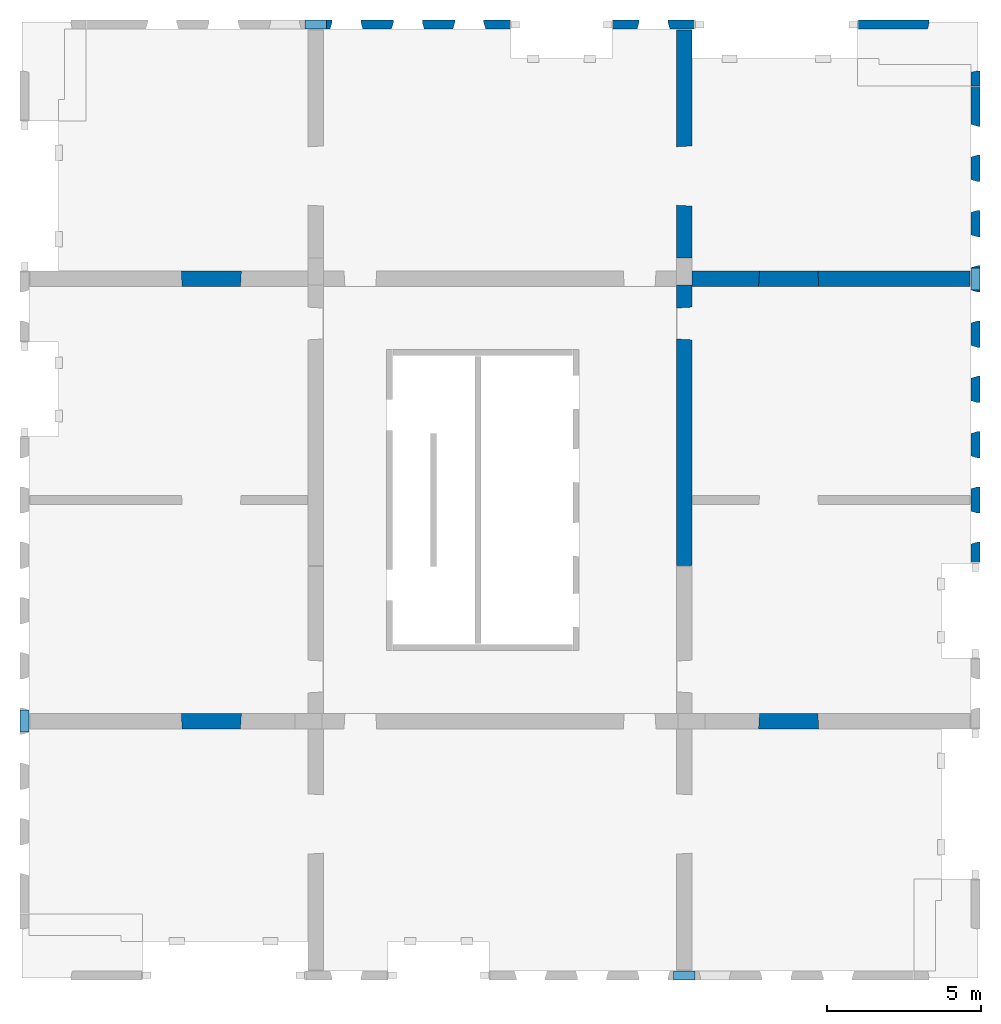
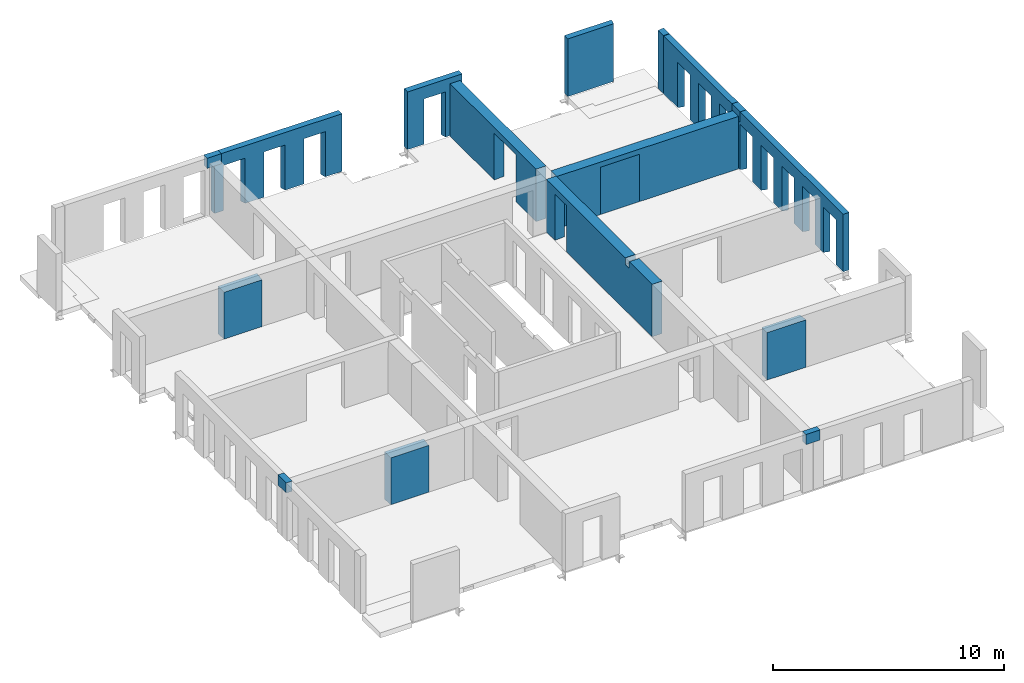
# One storey, part 4 of 4: 17 walls, 21 openings.
"""IFC2X3 building model written with IfcOpenShell, lengths in millimetres."""

import ifcopenshell
import ifcopenshell.guid

model = None  # the IFC model being written
_history = None  # IfcOwnerHistory: only IFC2X3 demands one
_inside = {}  # id of a spatial element -> (the spatial element, [elements in it])
_under = {}  # id of a project, library or spatial element -> (it, [spatial elements below it])
_declared = {}  # id of a project -> (the project, [libraries it declares])
_typed = {}  # id of a type object -> (the type object, [elements of that type])
_made_of = {}  # id of a material, layer set ... -> (it, [elements and type objects made of it])


def new_model(schema):
    """Start an empty IFC model of exactly this schema.

    Asked for "IFC4X3", IfcOpenShell would pick the latest addendum, in which some entities
    have other attributes; the version numbers below select the first issue.
    IFC2X3 requires an IfcOwnerHistory on every rooted entity: one is made here for all.
    """
    global model, _history
    if schema == "IFC4X3":
        model = ifcopenshell.file(schema_version=(4, 3, 0, 0))
    else:
        model = ifcopenshell.file(schema=schema)
    _inside.clear()
    _under.clear()
    _declared.clear()
    _typed.clear()
    _made_of.clear()
    _history = None
    if model.schema == "IFC2X3":
        org = make("IfcOrganization", Name="unknown")
        user = make(
            "IfcPersonAndOrganization",
            ThePerson=make("IfcPerson", FamilyName="unknown"),
            TheOrganization=org,
        )
        app = make(
            "IfcApplication",
            ApplicationDeveloper=org,
            Version="unknown",
            ApplicationFullName="unknown",
            ApplicationIdentifier="unknown",
        )
        _history = make(
            "IfcOwnerHistory",
            OwningUser=user,
            OwningApplication=app,
            ChangeAction="ADDED",
            CreationDate=0,
        )
    return model


def make(cls, **values):
    """One entity of the class cls with the attributes given. An attribute that is None is left unset."""
    return model.create_entity(
        cls, **{name: value for name, value in values.items() if value is not None}
    )


def entity(cls, *values):
    """Any entity or typed value of the class cls, its attributes in the order of the schema. None: left unset."""
    e = model.create_entity(cls)
    for i, value in enumerate(values):
        if value is not None:
            e[i] = value
    return e


def rooted(cls, **values):
    """An entity with a GlobalId (a new one), such as an element, a storey or a relation."""
    return make(cls, GlobalId=ifcopenshell.guid.new(), OwnerHistory=_history, **values)


def si_unit(unit_type, name, prefix=None):
    """IfcSIUnit, for example si_unit("LENGTHUNIT", "METRE", prefix="MILLI")."""
    return make("IfcSIUnit", UnitType=unit_type, Prefix=prefix, Name=name)


def converted_unit(unit_type, name, factor, base, dimensions=None, offset=None):
    """IfcConversionBasedUnit, such as the inch: factor (a typed value) times the base unit."""
    return make(
        "IfcConversionBasedUnit"
        if offset is None
        else "IfcConversionBasedUnitWithOffset",
        ConversionOffset=offset,
        Dimensions=None
        if dimensions is None
        else entity("IfcDimensionalExponents", *dimensions),
        UnitType=unit_type,
        Name=name,
        ConversionFactor=make(
            "IfcMeasureWithUnit", ValueComponent=factor, UnitComponent=base
        ),
    )


def derived_unit(unit_type, elements):
    """IfcDerivedUnit: a product of units, each with its exponent."""
    return make(
        "IfcDerivedUnit",
        Elements=[
            make("IfcDerivedUnitElement", Unit=unit, Exponent=power)
            for unit, power in elements
        ],
        UnitType=unit_type,
    )


def assignment(units):
    """IfcUnitAssignment: the units of a project."""
    return None if units is None else make("IfcUnitAssignment", Units=units)


def point(xyz):
    """IfcCartesianPoint."""
    return None if xyz is None else make("IfcCartesianPoint", Coordinates=xyz)


def direction(xyz):
    """IfcDirection."""
    return None if xyz is None else make("IfcDirection", DirectionRatios=xyz)


def frame(location, z_axis=None, x_axis=None):
    """IfcAxis2Placement3D, a coordinate frame: its origin and axes. An axis left out is left unset."""
    return make(
        "IfcAxis2Placement3D",
        Location=point(location),
        Axis=direction(z_axis),
        RefDirection=direction(x_axis),
    )


def frame_2d(location, x_axis=None):
    """IfcAxis2Placement2D, a coordinate frame in the plane: its origin and x axis."""
    return make(
        "IfcAxis2Placement2D", Location=point(location), RefDirection=direction(x_axis)
    )


def origin():
    """The frame at (0, 0, 0) with its axes left unset."""
    return frame((0.0, 0.0, 0.0))


def place(relative_to, where):
    """IfcLocalPlacement: puts the frame where relative to a parent placement (None: the world)."""
    return make(
        "IfcLocalPlacement", PlacementRelTo=relative_to, RelativePlacement=where
    )


def context(
    kind, dimensions, precision=None, world=None, true_north=None, identifier=None
):
    """IfcGeometricRepresentationContext, for example the 3D "Model" context."""
    return make(
        "IfcGeometricRepresentationContext",
        ContextIdentifier=identifier,
        ContextType=kind,
        CoordinateSpaceDimension=dimensions,
        Precision=precision,
        WorldCoordinateSystem=world,
        TrueNorth=true_north,
    )


def subcontext(parent, identifier, kind, view, scale=None):
    """IfcGeometricRepresentationSubContext, for example "Body" below "Model"."""
    return make(
        "IfcGeometricRepresentationSubContext",
        ContextIdentifier=identifier,
        ContextType=kind,
        ParentContext=parent,
        TargetScale=scale,
        TargetView=view,
    )


def project(units=None, contexts=None):
    """IfcProject with its units and contexts."""
    return rooted(
        "IfcProject",
        Name="project",
        RepresentationContexts=contexts,
        UnitsInContext=assignment(units),
    )


def spatial(cls, under=None, at=None, **own):
    """A site, building, storey or space (cls), placed at a placement, below another one or the project."""
    s = rooted(cls, ObjectPlacement=at, **own)
    if under is not None:
        _under.setdefault(under.id(), (under, []))[1].append(s)
    return s


def profile(cls, at=None, kind="AREA", **sizes):
    """A parametric profile (cls). Its sizes go by their IFC names, for example OverallWidth=200.0."""
    return make(cls, ProfileType=kind, Position=at, **sizes)


def rectangle(**sizes):
    """IfcRectangleProfileDef."""
    return profile("IfcRectangleProfileDef", **sizes)


def extrude(swept, where, along, depth):
    """IfcExtrudedAreaSolid: the profile swept, set in the frame where, extruded along a direction by depth."""
    return make(
        "IfcExtrudedAreaSolid",
        SweptArea=swept,
        Position=where,
        ExtrudedDirection=direction(along),
        Depth=depth,
    )


def faces_of(points, faces, orient=None, outer=None):
    """IfcFace entities. A face is a list of loops; a loop is a list of indices into points, from 0.

    orient and outer hold one flag for each loop. By default every Orientation is true, the
    first loop of a face is its IfcFaceOuterBound and the others are IfcFaceBound.
    """
    made = []
    for i, loops in enumerate(faces):
        bounds = []
        for j, loop in enumerate(loops):
            is_outer = j == 0 if outer is None else outer[i][j]
            bounds.append(
                make(
                    "IfcFaceOuterBound" if is_outer else "IfcFaceBound",
                    Bound=make("IfcPolyLoop", Polygon=[points[k] for k in loop]),
                    Orientation=True if orient is None else orient[i][j],
                )
            )
        made.append(make("IfcFace", Bounds=bounds))
    return made


def faceted_brep(points, faces, orient=None, outer=None, voids=None):
    """IfcFacetedBrep: a solid bounded by flat faces; with voids (closed shells), ...WithVoids."""
    shared = [point(p) for p in points]
    hull = make("IfcClosedShell", CfsFaces=faces_of(shared, faces, orient, outer))
    if voids is None:
        return make("IfcFacetedBrep", Outer=hull)
    return make(
        "IfcFacetedBrepWithVoids",
        Outer=hull,
        Voids=[
            make(cls, CfsFaces=faces_of(shared, fs, o, b)) for cls, fs, o, b in voids
        ],
    )


def shape(context_of_items, identifier, shape_type, items):
    """IfcShapeRepresentation: the items that make up one representation, for example the "Body"."""
    return make(
        "IfcShapeRepresentation",
        ContextOfItems=context_of_items,
        RepresentationIdentifier=identifier,
        RepresentationType=shape_type,
        Items=items,
    )


def material(Name=None, Category=None):
    """IfcMaterial."""
    return make("IfcMaterial", Name=Name, Category=Category)


def layer(
    of_material, thickness, ventilated=None, Name=None, Category=None, Priority=None
):
    """IfcMaterialLayer: one layer of a wall or slab, of a material (None: an air gap)."""
    return make(
        "IfcMaterialLayer",
        Material=of_material,
        LayerThickness=thickness,
        IsVentilated=ventilated,
        Name=Name,
        Category=Category,
        Priority=Priority,
    )


def layer_set(layers, Name=None):
    """IfcMaterialLayerSet."""
    return make("IfcMaterialLayerSet", MaterialLayers=layers, LayerSetName=Name)


def layer_usage(for_layer_set, set_direction, sense, offset, extent=None):
    """IfcMaterialLayerSetUsage: how a layer set lies in its element."""
    return make(
        "IfcMaterialLayerSetUsage",
        ForLayerSet=for_layer_set,
        LayerSetDirection=set_direction,
        DirectionSense=sense,
        OffsetFromReferenceLine=offset,
        ReferenceExtent=extent,
    )


def made_of(thing, what):
    """Note that an element or type object is made of a material, layer set ...; save() writes the relation."""
    if what is not None:
        _made_of.setdefault(what.id(), (what, []))[1].append(thing)
    return thing


def type_object(cls, material=None, **own):
    """A type object (cls), such as IfcWallType, which elements share."""
    return made_of(rooted(cls, **own), material)


def element(
    cls,
    number,
    at=None,
    inside=None,
    cuts=None,
    type_object=None,
    material=None,
    context=None,
    identifier="Body",
    shape_type=None,
    held_by="IfcProductDefinitionShape",
    body=None,
    shapes=None,
    **own,
):
    """One element of the class cls, such as IfcWall. Its Tag is "e" and its number.

    at: its placement. inside: the storey or other place that contains it. cuts: it is an
    opening in that element (IfcRelVoidsElement). A single representation is given by context,
    identifier, shape_type and body (its items); several are given by shapes. held_by: the class
    of the entity that holds the representations. save() writes the other relations.
    """
    e = rooted(cls, Tag="e%d" % number, ObjectPlacement=at, **own)
    if body is not None:
        shapes = [shape(context, identifier, shape_type, body)]
    if shapes is not None:
        e.Representation = make(held_by, Representations=shapes)
    if inside is not None:
        _inside.setdefault(inside.id(), (inside, []))[1].append(e)
    if cuts is not None:
        rooted(
            "IfcRelVoidsElement", RelatingBuildingElement=cuts, RelatedOpeningElement=e
        )
    if type_object is not None:
        _typed.setdefault(type_object.id(), (type_object, []))[1].append(e)
    return made_of(e, material)


def aggregate(whole, parts):
    """IfcRelAggregates: a whole, such as a stair, and the parts it consists of."""
    return rooted("IfcRelAggregates", RelatingObject=whole, RelatedObjects=parts)


def save(model, path):
    """Write the relations noted so far, then the file.

    IfcRelAggregates (storeys below a building ...), IfcRelContainedInSpatialStructure (elements
    in a storey), IfcRelDefinesByType, IfcRelAssociatesMaterial and IfcRelDeclares: one each for
    every whole, place, type object, material and project.
    """
    for whole, parts in _under.values():
        aggregate(whole, parts)
    for where, things in _inside.values():
        rooted(
            "IfcRelContainedInSpatialStructure",
            RelatedElements=things,
            RelatingStructure=where,
        )
    for kind, things in _typed.values():
        rooted("IfcRelDefinesByType", RelatedObjects=things, RelatingType=kind)
    for what, things in _made_of.values():
        rooted("IfcRelAssociatesMaterial", RelatedObjects=things, RelatingMaterial=what)
    for by, libraries in _declared.values():
        rooted("IfcRelDeclares", RelatingContext=by, RelatedDefinitions=libraries)
    model.write(path)


model = new_model("IFC2X3")

# Units and contexts
model_context = context("Model", 3, precision=0.01, world=origin(), true_north=direction((6.12303176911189e-17, 1.0)))
body_context = subcontext(model_context, "Body", "Model", "MODEL_VIEW")
ifc_project = project(units=[si_unit("LENGTHUNIT", "METRE", prefix="MILLI"), si_unit("AREAUNIT", "SQUARE_METRE"), si_unit("VOLUMEUNIT", "CUBIC_METRE"), converted_unit("PLANEANGLEUNIT", "DEGREE", entity("IfcRatioMeasure", 0.0174532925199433), si_unit("PLANEANGLEUNIT", "RADIAN"), dimensions=[0, 0, 0, 0, 0, 0, 0]), si_unit("MASSUNIT", "GRAM", prefix="KILO"), derived_unit("MASSDENSITYUNIT", [(si_unit("MASSUNIT", "GRAM", prefix="KILO"), 1), (si_unit("LENGTHUNIT", "METRE"), -3)]), si_unit("TIMEUNIT", "SECOND"), si_unit("FREQUENCYUNIT", "HERTZ"), si_unit("THERMODYNAMICTEMPERATUREUNIT", "DEGREE_CELSIUS"), derived_unit("THERMALTRANSMITTANCEUNIT", [(si_unit("MASSUNIT", "GRAM", prefix="KILO"), 1), (si_unit("THERMODYNAMICTEMPERATUREUNIT", "KELVIN"), -1), (si_unit("TIMEUNIT", "SECOND"), -3)]), derived_unit("VOLUMETRICFLOWRATEUNIT", [(si_unit("LENGTHUNIT", "METRE"), 3), (si_unit("TIMEUNIT", "SECOND"), -1)]), si_unit("ELECTRICCURRENTUNIT", "AMPERE"), si_unit("ELECTRICVOLTAGEUNIT", "VOLT"), si_unit("POWERUNIT", "WATT"), si_unit("FORCEUNIT", "NEWTON", prefix="KILO"), si_unit("ILLUMINANCEUNIT", "LUX"), si_unit("LUMINOUSFLUXUNIT", "LUMEN"), si_unit("LUMINOUSINTENSITYUNIT", "CANDELA"), derived_unit("USERDEFINED", [(si_unit("MASSUNIT", "GRAM", prefix="KILO"), -1), (si_unit("LENGTHUNIT", "METRE"), -2), (si_unit("TIMEUNIT", "SECOND"), 3), (si_unit("LUMINOUSFLUXUNIT", "LUMEN"), 1)]), derived_unit("LINEARVELOCITYUNIT", [(si_unit("LENGTHUNIT", "METRE"), 1), (si_unit("TIMEUNIT", "SECOND"), -1)]), si_unit("PRESSUREUNIT", "PASCAL"), derived_unit("USERDEFINED", [(si_unit("LENGTHUNIT", "METRE"), -2), (si_unit("MASSUNIT", "GRAM", prefix="KILO"), 1), (si_unit("TIMEUNIT", "SECOND"), -2)])], contexts=[model_context])

# Site, building, storey
site_placement = place(None, origin())
site = spatial("IfcSite", under=ifc_project, at=site_placement, Name="Default", CompositionType="ELEMENT")
building_placement = place(site_placement, origin())
building = spatial("IfcBuilding", under=site, at=building_placement, Name="niet gebruiken", CompositionType="ELEMENT")
storey_placement = place(building_placement, frame((0.0, 0.0, 54720.0)))
storey = spatial("IfcBuildingStorey", under=building, at=storey_placement, Name="17 zeventiende verdieping", CompositionType="ELEMENT", Elevation=54720.0)

# Walls
ifc_material_1 = material(Name="NLRS_f2_beton ihwg")
ifc_layer_1 = layer(ifc_material_1, 300.0)
ifc_layer_set_1 = layer_set([ifc_layer_1], Name="Basic Wall:NLRS_21.21_WA_beton ihwg d=300_gen")
ifc_layer_usage_1 = layer_usage(ifc_layer_set_1, "AXIS2", "NEGATIVE", 150.0)
wall_type_1 = type_object("IfcWallType", Name="Basic Wall:NLRS_21.21_WA_beton ihwg d=300_gen", PredefinedType="STANDARD", material=ifc_layer_set_1)
wall_1_placement = place(storey_placement, frame((135395.0, 32980.0, 2455.0)))
element("IfcWallStandardCase", 1, at=wall_1_placement, inside=storey, type_object=wall_type_1, material=ifc_layer_usage_1, Name="Basic Wall:NLRS_21.21_WA_beton ihwg d=300_gen", ObjectType="Basic Wall:NLRS_21.21_WA_beton ihwg d=300_gen", context=body_context, shape_type="SweptSolid", body=[
    extrude(rectangle(XDim=710.000000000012, YDim=300.000000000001, at=frame_2d((355.000000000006, 0.0), x_axis=(-1.0, 0.0))), origin(), (0.0, 0.0, 1.0), 535.0),
])
ifc_layer_usage_2 = layer_usage(ifc_layer_set_1, "AXIS2", "NEGATIVE", 150.0)
wall_2_placement = place(storey_placement, frame((148105.0, 2020.0, 2455.0), z_axis=(0.0, 0.0, 1.0), x_axis=(-1.0, 0.0, 0.0)))
element("IfcWallStandardCase", 2, at=wall_2_placement, inside=storey, type_object=wall_type_1, material=ifc_layer_usage_2, Name="Basic Wall:NLRS_21.21_WA_beton ihwg d=300_gen", ObjectType="Basic Wall:NLRS_21.21_WA_beton ihwg d=300_gen", context=body_context, shape_type="SweptSolid", body=[
    extrude(rectangle(XDim=710.000000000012, YDim=300.0, at=frame_2d((355.000000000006, -1.4210854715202e-14), x_axis=(-1.0, 0.0))), origin(), (0.0, 0.0, 1.0), 535.0),
])
ifc_layer_usage_3 = layer_usage(ifc_layer_set_1, "AXIS2", "NEGATIVE", 150.0)
wall_3_placement = place(storey_placement, frame((157230.0, 25055.0, 2455.0), z_axis=(0.0, 0.0, 1.0), x_axis=(0.0, -1.0, 0.0)))
element("IfcWallStandardCase", 3, at=wall_3_placement, inside=storey, type_object=wall_type_1, material=ifc_layer_usage_3, Name="Basic Wall:NLRS_21.21_WA_beton ihwg d=300_gen", ObjectType="Basic Wall:NLRS_21.21_WA_beton ihwg d=300_gen", context=body_context, shape_type="SweptSolid", body=[
    extrude(rectangle(XDim=710.000000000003, YDim=300.000000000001, at=frame_2d((355.000000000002, 9.9475983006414e-13), x_axis=(-1.0, 0.0))), origin(), (0.0, 0.0, 1.0), 535.0),
])
ifc_layer_usage_4 = layer_usage(ifc_layer_set_1, "AXIS2", "NEGATIVE", 150.0)
wall_4_placement = place(storey_placement, frame((126270.0, 9945.0, 2455.0), z_axis=(0.0, 0.0, 1.0), x_axis=(0.0, 1.0, 0.0)))
element("IfcWallStandardCase", 4, at=wall_4_placement, inside=storey, type_object=wall_type_1, material=ifc_layer_usage_4, Name="Basic Wall:NLRS_21.21_WA_beton ihwg d=300_gen", ObjectType="Basic Wall:NLRS_21.21_WA_beton ihwg d=300_gen", context=body_context, shape_type="SweptSolid", body=[
    extrude(rectangle(XDim=710.000000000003, YDim=300.000000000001, at=frame_2d((355.000000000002, 0.0), x_axis=(-1.0, 0.0))), origin(), (0.0, 0.0, 1.0), 535.0),
])

# Wall, opening
ifc_material_2 = material(Name="NLRS_f2_beton prefab")
ifc_layer_2 = layer(ifc_material_2, 500.0)
ifc_layer_set_2 = layer_set([ifc_layer_2], Name="Basic Wall:NLRS_22.21_WA_beton prefab d=500_gen")
ifc_layer_usage_5 = layer_usage(ifc_layer_set_2, "AXIS2", "NEGATIVE", 250.0)
wall_type_2 = type_object("IfcWallType", Name="Basic Wall:NLRS_22.21_WA_beton prefab d=500_gen", PredefinedType="STANDARD", material=ifc_layer_set_2)
wall_5_placement = place(storey_placement, frame((157060.0, 24700.0, -70.0), z_axis=(0.0, 0.0, 1.0), x_axis=(-1.0, 0.0, 0.0)))
wall_5 = element("IfcWallStandardCase", 5, at=wall_5_placement, inside=storey, type_object=wall_type_2, material=ifc_layer_usage_5, Name="Basic Wall:NLRS_22.21_WA_beton prefab d=500_gen", ObjectType="Basic Wall:NLRS_22.21_WA_beton prefab d=500_gen", context=body_context, shape_type="SweptSolid", body=[
    extrude(rectangle(XDim=9060.00000000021, YDim=499.999999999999, at=frame_2d((4530.00000000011, -1.37845290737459e-12), x_axis=(-1.0, 0.0))), origin(), (0.0, 0.0, 1.0), 2769.99999999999),
])
opening_1_placement = place(wall_5_placement, frame((6890.0, 250.0, 0.0)))
element("IfcOpeningElement", 6, at=opening_1_placement, cuts=wall_5, Name="Basic Wall:NLRS_22.21_WA_beton prefab d=500_gen", ObjectType="Opening", context=body_context, shape_type="Brep", body=[
    faceted_brep([(-30.0, -500.0, 2470.0), (-1930.0, -500.0, 2470.0), (-1930.0, -500.0, 0.0), (-30.0, -500.0, 0.0), (0.0, 0.0, 2500.0), (0.0, 0.0, 0.0), (-1960.0, 0.0, 0.0), (-1960.0, 0.0, 2500.0)], [[[0, 1, 2, 3]], [[4, 5, 6, 7]], [[4, 7, 1, 0]], [[7, 6, 2, 1]], [[6, 5, 3, 2]], [[5, 4, 0, 3]]]),
])

ifc_layer_usage_6 = layer_usage(ifc_layer_set_2, "AXIS2", "NEGATIVE", 250.0)
wall_6_placement = place(storey_placement, frame((147750.0, 25380.0, -70.0), z_axis=(0.0, 0.0, 1.0), x_axis=(0.0, 1.0, 0.0)))
wall_6 = element("IfcWallStandardCase", 7, at=wall_6_placement, inside=storey, type_object=wall_type_2, material=ifc_layer_usage_6, Name="Basic Wall:NLRS_22.21_WA_beton prefab d=500_gen", ObjectType="Basic Wall:NLRS_22.21_WA_beton prefab d=500_gen", context=body_context, shape_type="SweptSolid", body=[
    extrude(rectangle(XDim=7429.99999999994, YDim=499.99999999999, at=frame_2d((3714.99999999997, 1.70530256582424e-12), x_axis=(-1.0, 0.0))), origin(), (0.0, 0.0, 1.0), 2769.99999999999),
])
opening_2_placement = place(wall_6_placement, frame((1690.0, 250.0, 0.0)))
element("IfcOpeningElement", 8, at=opening_2_placement, cuts=wall_6, Name="Basic Wall:NLRS_22.21_WA_beton prefab d=500_gen", ObjectType="Opening", context=body_context, shape_type="Brep", body=[
    faceted_brep([(1930.0, 0.0, 2470.0), (1930.0, 0.0, 0.0), (30.0, 0.0, 0.0), (30.0, 0.0, 2470.0), (1960.0, -500.0, 2500.0), (0.0, -500.0, 2500.0), (0.0, -500.0, 0.0), (1960.0, -500.0, 0.0)], [[[0, 1, 2, 3]], [[4, 5, 6, 7]], [[4, 0, 3, 5]], [[5, 3, 2, 6]], [[6, 2, 1, 7]], [[7, 1, 0, 4]]]),
])

# Wall, openings
ifc_layer_usage_7 = layer_usage(ifc_layer_set_2, "AXIS2", "NEGATIVE", 250.0)
wall_7_placement = place(storey_placement, frame((147750.0, 24500.0, -70.0), z_axis=(0.0, 0.0, 1.0), x_axis=(0.0, -1.0, 0.0)))
wall_7 = element("IfcWallStandardCase", 9, at=wall_7_placement, inside=storey, type_object=wall_type_2, material=ifc_layer_usage_7, Name="Basic Wall:NLRS_22.21_WA_beton prefab d=500_gen", ObjectType="Basic Wall:NLRS_22.21_WA_beton prefab d=500_gen", context=body_context, shape_type="SweptSolid", body=[
    extrude(rectangle(XDim=9140.00000000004, YDim=499.99999999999, at=frame_2d((4570.00000000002, -1.4210854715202e-14), x_axis=(-1.0, 0.0))), origin(), (0.0, 0.0, 1.0), 2770.00000000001),
])
opening_3_placement = place(wall_7_placement, frame((1786.0, -250.0, 0.0)))
element("IfcOpeningElement", 10, at=opening_3_placement, cuts=wall_7, Name="Basic Wall:NLRS_22.21_WA_beton prefab d=500_gen", ObjectType="Opening", context=body_context, shape_type="Brep", body=[
    faceted_brep([(-1066.0, 500.0, 2478.0), (-1066.0, 500.0, 0.0), (-1036.0, 0.0, 0.0), (-1036.0, 0.0, 2448.0), (0.0, 500.0, 0.0), (-30.0, 0.0, 0.0), (-30.0, 0.0, 2448.0), (0.0, 500.0, 2478.0)], [[[0, 1, 2, 3]], [[1, 4, 5, 2]], [[6, 3, 2, 5]], [[7, 4, 1, 0]], [[7, 0, 3, 6]], [[4, 7, 6, 5]]]),
])
opening_4_placement = place(wall_7_placement, origin())
element("IfcOpeningElement", 11, at=opening_4_placement, cuts=wall_7, Name="Basic Wall:NLRS_22.21_WA_beton prefab d=500_gen", ObjectType="Opening", context=body_context, shape_type="SweptSolid", body=[
    extrude(rectangle(XDim=350.000000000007, YDim=339.999999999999, at=frame_2d((-1.08002495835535e-12, -8.66862137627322e-12), x_axis=(0.0, 1.0))), frame((7000.0, 250.0, 2595.0), z_axis=(0.0, -1.0, 0.0), x_axis=(-1.0, 0.0, 0.0)), (0.0, 0.0, 1.0), 500.0),
])

# Wall, opening
ifc_layer_3 = layer(ifc_material_2, 300.0)
ifc_layer_set_3 = layer_set([ifc_layer_3], Name="Basic Wall:NLRS_21.21_WA_beton prefab d=300/320_gen")
ifc_layer_usage_8 = layer_usage(ifc_layer_set_3, "AXIS2", "NEGATIVE", 150.0)
wall_type_3 = type_object("IfcWallType", Name="Basic Wall:NLRS_21.21_WA_beton prefab d=300/320_gen", PredefinedType="STANDARD", material=ifc_layer_set_3)
wall_8_placement = place(storey_placement, frame((145390.0, 32980.0, -50.0)))
wall_8 = element("IfcWallStandardCase", 12, at=wall_8_placement, inside=storey, type_object=wall_type_3, material=ifc_layer_usage_8, Name="Basic Wall:NLRS_21.21_WA_beton prefab d=300/320_gen", ObjectType="Basic Wall:NLRS_21.21_WA_beton prefab d=300/320_gen", context=body_context, shape_type="SweptSolid", body=[
    extrude(rectangle(XDim=2720.00000000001, YDim=300.000000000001, at=frame_2d((1360.0, -4.54747350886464e-13), x_axis=(-1.0, 0.0))), origin(), (0.0, 0.0, 1.0), 3040.0),
])
opening_5_placement = place(wall_8_placement, frame((825.0, -150.0, -20.0)))
element("IfcOpeningElement", 13, at=opening_5_placement, cuts=wall_8, Name="Basic Wall:NLRS_21.21_WA_beton prefab d=300/320_gen", ObjectType="Opening", context=body_context, shape_type="Brep", body=[
    faceted_brep([(0.0, 0.0, 2405.0), (0.0, 0.0, 0.0), (1070.0, 0.0, 0.0), (1070.0, 0.0, 2405.0), (1005.0, 219.0, 2370.0), (65.0, 219.0, 2370.0), (1005.0, 219.0, 0.0), (65.0, 219.0, 0.0), (65.0, 300.0, 0.0), (1005.0, 300.0, 0.0), (65.0, 300.0, 2370.0), (1005.0, 300.0, 2370.0)], [[[0, 1, 2, 3]], [[3, 4, 5, 0]], [[2, 6, 4, 3]], [[1, 7, 8, 9, 6, 2]], [[0, 5, 7, 1]], [[10, 11, 9, 8]], [[10, 5, 4, 11]], [[11, 4, 6, 9]], [[8, 7, 5, 10]]]),
])

# Wall, openings
ifc_layer_usage_9 = layer_usage(ifc_layer_set_3, "AXIS2", "NEGATIVE", 150.0)
wall_9_placement = place(storey_placement, frame((157230.0, 30960.0, -50.0), z_axis=(0.0, 0.0, 1.0), x_axis=(0.0, -1.0, 0.0)))
wall_9 = element("IfcWallStandardCase", 14, at=wall_9_placement, inside=storey, type_object=wall_type_3, material=ifc_layer_usage_9, Name="Basic Wall:NLRS_21.21_WA_beton prefab d=300/320_gen", ObjectType="Basic Wall:NLRS_21.21_WA_beton prefab d=300/320_gen", context=body_context, shape_type="SweptSolid", body=[
    extrude(rectangle(XDim=6249.99999999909, YDim=300.000000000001, at=frame_2d((3124.99999999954, -8.61177795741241e-12), x_axis=(-1.0, 0.0))), origin(), (0.0, 0.0, 1.0), 3039.99999999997),
])
opening_6_placement = place(wall_9_placement, frame((2295.0, -150.0, -20.0)))
element("IfcOpeningElement", 15, at=opening_6_placement, cuts=wall_9, Name="Basic Wall:NLRS_21.21_WA_beton prefab d=300/320_gen", ObjectType="Opening", context=body_context, shape_type="Brep", body=[
    faceted_brep([(-1070.0, 0.0, 2405.0), (-1070.0, 0.0, 0.0), (0.0, 0.0, 0.0), (0.0, 0.0, 2405.0), (-65.0, 219.0, 2370.0), (-1005.0, 219.0, 2370.0), (-65.0, 219.0, 0.0), (-1005.0, 219.0, 0.0), (-1005.0, 300.0, 0.0), (-65.0, 300.0, 0.0), (-1005.0, 300.0, 2370.0), (-65.0, 300.0, 2370.0)], [[[0, 1, 2, 3]], [[3, 4, 5, 0]], [[2, 6, 4, 3]], [[1, 7, 8, 9, 6, 2]], [[0, 5, 7, 1]], [[10, 11, 9, 8]], [[10, 5, 4, 11]], [[11, 4, 6, 9]], [[8, 7, 5, 10]]]),
])
opening_7_placement = place(wall_9_placement, frame((4095.0, -150.0, -20.0)))
element("IfcOpeningElement", 16, at=opening_7_placement, cuts=wall_9, Name="Basic Wall:NLRS_21.21_WA_beton prefab d=300/320_gen", ObjectType="Opening", context=body_context, shape_type="Brep", body=[
    faceted_brep([(-1070.0, 0.0, 2405.0), (-1070.0, 0.0, 0.0), (0.0, 0.0, 0.0), (0.0, 0.0, 2405.0), (-65.0, 219.0, 2370.0), (-1005.0, 219.0, 2370.0), (-65.0, 219.0, 0.0), (-1005.0, 219.0, 0.0), (-1005.0, 300.0, 0.0), (-65.0, 300.0, 0.0), (-1005.0, 300.0, 2370.0), (-65.0, 300.0, 2370.0)], [[[0, 1, 2, 3]], [[3, 4, 5, 0]], [[2, 6, 4, 3]], [[1, 7, 8, 9, 6, 2]], [[0, 5, 7, 1]], [[10, 11, 9, 8]], [[10, 5, 4, 11]], [[11, 4, 6, 9]], [[8, 7, 5, 10]]]),
])
opening_8_placement = place(wall_9_placement, frame((5895.0, -150.0, -20.0)))
element("IfcOpeningElement", 17, at=opening_8_placement, cuts=wall_9, Name="Basic Wall:NLRS_21.21_WA_beton prefab d=300/320_gen", ObjectType="Opening", context=body_context, shape_type="Brep", body=[
    faceted_brep([(-1070.0, 0.0, 2405.0), (-1070.0, 0.0, 0.0), (0.0, 0.0, 0.0), (0.0, 0.0, 2405.0), (-65.0, 219.0, 2370.0), (-1005.0, 219.0, 2370.0), (-65.0, 219.0, 0.0), (-1005.0, 219.0, 0.0), (-1005.0, 300.0, 0.0), (-65.0, 300.0, 0.0), (-1005.0, 300.0, 2370.0), (-65.0, 300.0, 2370.0)], [[[0, 1, 2, 3]], [[3, 4, 5, 0]], [[2, 6, 4, 3]], [[1, 7, 8, 9, 6, 2]], [[0, 5, 7, 1]], [[10, 11, 9, 8]], [[10, 5, 4, 11]], [[11, 4, 6, 9]], [[8, 7, 5, 10]]]),
])
opening_9_placement = place(wall_9_placement, origin())
element("IfcOpeningElement", 18, at=opening_9_placement, cuts=wall_9, Name="Basic Wall:NLRS_21.21_WA_beton prefab d=300/320_gen", ObjectType="Opening", context=body_context, shape_type="SweptSolid", body=[
    extrude(rectangle(XDim=534.99999999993, YDim=344.999999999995, at=frame_2d((0.0, -2.17426077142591e-12), x_axis=(1.0, 0.0))), frame((6077.49999999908, 150.0, 2772.5), z_axis=(0.0, -1.0, 0.0), x_axis=(0.0, 0.0, 1.0)), (0.0, 0.0, 1.0), 300.0),
])

# Wall, opening
ifc_layer_usage_10 = layer_usage(ifc_layer_set_3, "AXIS2", "NEGATIVE", 150.0)
wall_10_placement = place(storey_placement, frame((153390.0, 32980.0, -50.0)))
wall_10 = element("IfcWallStandardCase", 19, at=wall_10_placement, inside=storey, type_object=wall_type_3, material=ifc_layer_usage_10, Name="Basic Wall:NLRS_21.21_WA_beton prefab d=300/320_gen", ObjectType="Basic Wall:NLRS_21.21_WA_beton prefab d=300/320_gen", context=body_context, shape_type="SweptSolid", body=[
    extrude(rectangle(XDim=2330.00000000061, YDim=300.000000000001, at=frame_2d((1165.00000000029, -1.29318777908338e-12), x_axis=(-1.0, 0.0))), origin(), (0.0, 0.0, 1.0), 3040.0),
])
opening_10_placement = place(wall_10_placement, frame((2265.0, -250.0, 0.0)))
element("IfcOpeningElement", 20, at=opening_10_placement, cuts=wall_10, Name="Basic Wall:NLRS_21.21_WA_beton prefab d=300/320_gen", ObjectType="Opening", context=body_context, shape_type="Brep", body=[
    faceted_brep([(65.0, 0.0, 3040.0), (65.0, 319.0, 3040.0), (0.0, 0.0, 3040.0), (65.0, 0.0, 0.0), (0.0, 0.0, 0.0), (65.0, 319.0, 0.0)], [[[0, 1, 2]], [[3, 4, 5]], [[2, 4, 3, 0]], [[0, 3, 5, 1]], [[1, 5, 4, 2]]]),
])

ifc_layer_usage_11 = layer_usage(ifc_layer_set_3, "AXIS2", "NEGATIVE", 150.0)
wall_11_placement = place(storey_placement, frame((157230.0, 31470.0, -50.0), z_axis=(0.0, 0.0, 1.0), x_axis=(0.0, -1.0, 0.0)))
wall_11 = element("IfcWallStandardCase", 21, at=wall_11_placement, inside=storey, type_object=wall_type_3, material=ifc_layer_usage_11, Name="Basic Wall:NLRS_21.21_WA_beton prefab d=300/320_gen", ObjectType="Basic Wall:NLRS_21.21_WA_beton prefab d=300/320_gen", context=body_context, shape_type="SweptSolid", body=[
    extrude(rectangle(XDim=489.999999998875, YDim=300.000000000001, at=frame_2d((244.999999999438, -7.8159700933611e-13), x_axis=(-1.0, 0.0))), origin(), (0.0, 0.0, 1.0), 3040.0),
])
opening_11_placement = place(wall_11_placement, frame((65.0, -250.0, 0.0)))
element("IfcOpeningElement", 22, at=opening_11_placement, cuts=wall_11, Name="Basic Wall:NLRS_21.21_WA_beton prefab d=300/320_gen", ObjectType="Opening", context=body_context, shape_type="Brep", body=[
    faceted_brep([(-65.0, 0.0, 3040.0), (0.0, 0.0, 3040.0), (-65.0, 319.0, 3040.0), (-65.0, 0.0, 0.0), (-65.0, 319.0, 0.0), (0.0, 0.0, 0.0)], [[[0, 1, 2]], [[3, 4, 5]], [[1, 0, 3, 5]], [[0, 2, 4, 3]], [[2, 1, 5, 4]]]),
])

# Wall, openings
ifc_layer_usage_12 = layer_usage(ifc_layer_set_3, "AXIS2", "NEGATIVE", 150.0)
wall_12_placement = place(storey_placement, frame((157230.0, 24690.0, -50.0), z_axis=(0.0, 0.0, 1.0), x_axis=(0.0, -1.0, 0.0)))
wall_12 = element("IfcWallStandardCase", 23, at=wall_12_placement, inside=storey, type_object=wall_type_3, material=ifc_layer_usage_12, Name="Basic Wall:NLRS_21.21_WA_beton prefab d=300/320_gen", ObjectType="Basic Wall:NLRS_21.21_WA_beton prefab d=300/320_gen", context=body_context, shape_type="SweptSolid", body=[
    extrude(rectangle(XDim=9250.00000000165, YDim=300.000000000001, at=frame_2d((4625.00000000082, -4.43378667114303e-12), x_axis=(-1.0, 0.0))), origin(), (0.0, 0.0, 1.0), 3040.0),
])
opening_12_placement = place(wall_12_placement, frame((8625.0, -150.0, -20.0)))
element("IfcOpeningElement", 24, at=opening_12_placement, cuts=wall_12, Name="Basic Wall:NLRS_21.21_WA_beton prefab d=300/320_gen", ObjectType="Opening", context=body_context, shape_type="Brep", body=[
    faceted_brep([(-1070.0, 0.0, 2405.0), (-1070.0, 0.0, 0.0), (0.0, 0.0, 0.0), (0.0, 0.0, 2405.0), (-65.0, 219.0, 2370.0), (-1005.0, 219.0, 2370.0), (-65.0, 219.0, 0.0), (-1005.0, 219.0, 0.0), (-1005.0, 300.0, 0.0), (-65.0, 300.0, 0.0), (-1005.0, 300.0, 2370.0), (-65.0, 300.0, 2370.0)], [[[0, 1, 2, 3]], [[3, 4, 5, 0]], [[2, 6, 4, 3]], [[1, 7, 8, 9, 6, 2]], [[0, 5, 7, 1]], [[10, 11, 9, 8]], [[10, 5, 4, 11]], [[11, 4, 6, 9]], [[8, 7, 5, 10]]]),
])
opening_13_placement = place(wall_12_placement, frame((5025.0, -150.0, -20.0)))
element("IfcOpeningElement", 25, at=opening_13_placement, cuts=wall_12, Name="Basic Wall:NLRS_21.21_WA_beton prefab d=300/320_gen", ObjectType="Opening", context=body_context, shape_type="Brep", body=[
    faceted_brep([(-1070.0, 0.0, 2405.0), (-1070.0, 0.0, 0.0), (0.0, 0.0, 0.0), (0.0, 0.0, 2405.0), (-65.0, 219.0, 2370.0), (-1005.0, 219.0, 2370.0), (-65.0, 219.0, 0.0), (-1005.0, 219.0, 0.0), (-1005.0, 300.0, 0.0), (-65.0, 300.0, 0.0), (-1005.0, 300.0, 2370.0), (-65.0, 300.0, 2370.0)], [[[0, 1, 2, 3]], [[3, 4, 5, 0]], [[2, 6, 4, 3]], [[1, 7, 8, 9, 6, 2]], [[0, 5, 7, 1]], [[10, 11, 9, 8]], [[10, 5, 4, 11]], [[11, 4, 6, 9]], [[8, 7, 5, 10]]]),
])
opening_14_placement = place(wall_12_placement, frame((3225.0, -150.0, -20.0)))
element("IfcOpeningElement", 26, at=opening_14_placement, cuts=wall_12, Name="Basic Wall:NLRS_21.21_WA_beton prefab d=300/320_gen", ObjectType="Opening", context=body_context, shape_type="Brep", body=[
    faceted_brep([(-1070.0, 0.0, 2405.0), (-1070.0, 0.0, 0.0), (0.0, 0.0, 0.0), (0.0, 0.0, 2405.0), (-65.0, 219.0, 2370.0), (-1005.0, 219.0, 2370.0), (-65.0, 219.0, 0.0), (-1005.0, 219.0, 0.0), (-1005.0, 300.0, 0.0), (-65.0, 300.0, 0.0), (-1005.0, 300.0, 2370.0), (-65.0, 300.0, 2370.0)], [[[0, 1, 2, 3]], [[3, 4, 5, 0]], [[2, 6, 4, 3]], [[1, 7, 8, 9, 6, 2]], [[0, 5, 7, 1]], [[10, 11, 9, 8]], [[10, 5, 4, 11]], [[11, 4, 6, 9]], [[8, 7, 5, 10]]]),
])
opening_15_placement = place(wall_12_placement, frame((6825.0, -150.0, -20.0)))
element("IfcOpeningElement", 27, at=opening_15_placement, cuts=wall_12, Name="Basic Wall:NLRS_21.21_WA_beton prefab d=300/320_gen", ObjectType="Opening", context=body_context, shape_type="Brep", body=[
    faceted_brep([(-1070.0, 0.0, 2405.0), (-1070.0, 0.0, 0.0), (0.0, 0.0, 0.0), (0.0, 0.0, 2405.0), (-65.0, 219.0, 2370.0), (-1005.0, 219.0, 2370.0), (-65.0, 219.0, 0.0), (-1005.0, 219.0, 0.0), (-1005.0, 300.0, 0.0), (-65.0, 300.0, 0.0), (-1005.0, 300.0, 2370.0), (-65.0, 300.0, 2370.0)], [[[0, 1, 2, 3]], [[3, 4, 5, 0]], [[2, 6, 4, 3]], [[1, 7, 8, 9, 6, 2]], [[0, 5, 7, 1]], [[10, 11, 9, 8]], [[10, 5, 4, 11]], [[11, 4, 6, 9]], [[8, 7, 5, 10]]]),
])
opening_16_placement = place(wall_12_placement, frame((1425.0, -150.0, -20.0)))
element("IfcOpeningElement", 28, at=opening_16_placement, cuts=wall_12, Name="Basic Wall:NLRS_21.21_WA_beton prefab d=300/320_gen", ObjectType="Opening", context=body_context, shape_type="Brep", body=[
    faceted_brep([(0.0, 0.0, 2405.0), (-1070.0, 0.0, 2405.0), (-1070.0, 0.0, 0.0), (0.0, 0.0, 0.0), (-65.0, 219.0, 2370.0), (-1005.0, 219.0, 2370.0), (-1005.0, 219.0, 0.0), (-1005.0, 300.0, 0.0), (-65.0, 300.0, 0.0), (-65.0, 219.0, 0.0), (-65.0, 300.0, 2370.0), (-1005.0, 300.0, 2370.0)], [[[0, 1, 2, 3]], [[1, 0, 4, 5]], [[2, 1, 5, 6]], [[3, 2, 6, 7, 8, 9]], [[0, 3, 9, 4]], [[10, 8, 7, 11]], [[10, 11, 5, 4]], [[11, 7, 6, 5]], [[8, 10, 4, 9]]]),
])
opening_17_placement = place(wall_12_placement, origin())
element("IfcOpeningElement", 29, at=opening_17_placement, cuts=wall_12, Name="Basic Wall:NLRS_21.21_WA_beton prefab d=300/320_gen", ObjectType="Opening", context=body_context, shape_type="SweptSolid", body=[
    extrude(rectangle(XDim=534.999999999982, YDim=345.000000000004, at=frame_2d((-2.1600499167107e-12, 0.0), x_axis=(0.0, 1.0))), frame((172.5, 150.0, 2772.50000000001), z_axis=(0.0, -1.0, 0.0), x_axis=(-1.0, 0.0, 0.0)), (0.0, 0.0, 1.0), 300.0),
])

ifc_layer_usage_13 = layer_usage(ifc_layer_set_3, "AXIS2", "NEGATIVE", 150.0)
wall_13_placement = place(storey_placement, frame((135760.0, 32980.0, -50.0)))
wall_13 = element("IfcWallStandardCase", 30, at=wall_13_placement, inside=storey, type_object=wall_type_3, material=ifc_layer_usage_13, Name="Basic Wall:NLRS_21.21_WA_beton prefab d=300/320_gen", ObjectType="Basic Wall:NLRS_21.21_WA_beton prefab d=300/320_gen", context=body_context, shape_type="SweptSolid", body=[
    extrude(rectangle(XDim=6350.00000000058, YDim=300.000000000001, at=frame_2d((3175.00000000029, 0.0), x_axis=(-1.0, 0.0))), origin(), (0.0, 0.0, 1.0), 3040.0),
])
opening_18_placement = place(wall_13_placement, frame((455.0, -150.0, -20.0)))
element("IfcOpeningElement", 31, at=opening_18_placement, cuts=wall_13, Name="Basic Wall:NLRS_21.21_WA_beton prefab d=300/320_gen", ObjectType="Opening", context=body_context, shape_type="Brep", body=[
    faceted_brep([(1070.0, 0.0, 2405.0), (0.0, 0.0, 2405.0), (0.0, 0.0, 0.0), (1070.0, 0.0, 0.0), (1005.0, 219.0, 2370.0), (65.0, 219.0, 2370.0), (65.0, 219.0, 0.0), (65.0, 300.0, 0.0), (1005.0, 300.0, 0.0), (1005.0, 219.0, 0.0), (1005.0, 300.0, 2370.0), (65.0, 300.0, 2370.0)], [[[0, 1, 2, 3]], [[1, 0, 4, 5]], [[2, 1, 5, 6]], [[3, 2, 6, 7, 8, 9]], [[0, 3, 9, 4]], [[10, 8, 7, 11]], [[10, 11, 5, 4]], [[11, 7, 6, 5]], [[8, 10, 4, 9]]]),
])
opening_19_placement = place(wall_13_placement, frame((2455.0, -150.0, -20.0)))
element("IfcOpeningElement", 32, at=opening_19_placement, cuts=wall_13, Name="Basic Wall:NLRS_21.21_WA_beton prefab d=300/320_gen", ObjectType="Opening", context=body_context, shape_type="Brep", body=[
    faceted_brep([(1070.0, 0.0, 2405.0), (0.0, 0.0, 2405.0), (0.0, 0.0, 0.0), (1070.0, 0.0, 0.0), (1005.0, 219.0, 2370.0), (65.0, 219.0, 2370.0), (65.0, 219.0, 0.0), (65.0, 300.0, 0.0), (1005.0, 300.0, 0.0), (1005.0, 219.0, 0.0), (1005.0, 300.0, 2370.0), (65.0, 300.0, 2370.0)], [[[0, 1, 2, 3]], [[1, 0, 4, 5]], [[2, 1, 5, 6]], [[3, 2, 6, 7, 8, 9]], [[0, 3, 9, 4]], [[10, 8, 7, 11]], [[10, 11, 5, 4]], [[11, 7, 6, 5]], [[8, 10, 4, 9]]]),
])
opening_20_placement = place(wall_13_placement, frame((4455.0, -150.0, -20.0)))
element("IfcOpeningElement", 33, at=opening_20_placement, cuts=wall_13, Name="Basic Wall:NLRS_21.21_WA_beton prefab d=300/320_gen", ObjectType="Opening", context=body_context, shape_type="Brep", body=[
    faceted_brep([(1070.0, 0.0, 2405.0), (0.0, 0.0, 2405.0), (0.0, 0.0, 0.0), (1070.0, 0.0, 0.0), (1005.0, 219.0, 2370.0), (65.0, 219.0, 2370.0), (65.0, 219.0, 0.0), (65.0, 300.0, 0.0), (1005.0, 300.0, 0.0), (1005.0, 219.0, 0.0), (1005.0, 300.0, 2370.0), (65.0, 300.0, 2370.0)], [[[0, 1, 2, 3]], [[1, 0, 4, 5]], [[2, 1, 5, 6]], [[3, 2, 6, 7, 8, 9]], [[0, 3, 9, 4]], [[10, 8, 7, 11]], [[10, 11, 5, 4]], [[11, 7, 6, 5]], [[8, 10, 4, 9]]]),
])
opening_21_placement = place(wall_13_placement, origin())
element("IfcOpeningElement", 34, at=opening_21_placement, cuts=wall_13, Name="Basic Wall:NLRS_21.21_WA_beton prefab d=300/320_gen", ObjectType="Opening", context=body_context, shape_type="SweptSolid", body=[
    extrude(rectangle(XDim=534.999999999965, YDim=345.000000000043, at=frame_2d((0.0, 0.0), x_axis=(0.0, 1.0))), frame((172.500000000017, 150.0, 2772.50000000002), z_axis=(0.0, -1.0, 0.0), x_axis=(-1.0, 0.0, 0.0)), (0.0, 0.0, 1.0), 300.0),
])

# Walls
ifc_material_3 = material(Name="NLRS_f2_beton prefab dichtstorten")
wall_type_4 = type_object("IfcWallType", Name="Parametric Wall:NLRS_22.21_WA_beton prefab d=500 1900x2470_gen", PredefinedType="NOTDEFINED", material=ifc_material_3)
for number, where in (
    (35, (150170.0, 10050.0, -70.0)),
    (36, (150170.0, 24450.0, -70.0)),
):
    element("IfcWall", number, at=place(storey_placement, frame(where)), inside=storey, type_object=wall_type_4, material=ifc_material_3, Name="Parametric Wall:NLRS_22.21_WA_beton prefab d=500 1900x2470_gen", ObjectType="Parametric Wall:NLRS_22.21_WA_beton prefab d=500 1900x2470_gen", context=body_context, shape_type="Brep", body=[
        faceted_brep([(0.0, 0.0, 2500.0), (0.0, 0.0, 0.0), (1960.0, 0.0, 0.0), (1960.0, 0.0, 2500.0), (30.0, 500.0, 2470.0), (1930.0, 500.0, 2470.0), (1930.0, 500.0, 0.0), (30.0, 500.0, 0.0)], [[[0, 1, 2, 3]], [[4, 5, 6, 7]], [[4, 7, 1, 0]], [[7, 6, 2, 1]], [[6, 5, 3, 2]], [[5, 4, 0, 3]]]),
    ])
wall_14_placement = place(storey_placement, frame((131370.0, 24450.0, -70.0)))
element("IfcWall", 37, at=wall_14_placement, inside=storey, type_object=wall_type_4, material=ifc_material_3, Name="Parametric Wall:NLRS_22.21_WA_beton prefab d=500 1900x2470_gen", ObjectType="Parametric Wall:NLRS_22.21_WA_beton prefab d=500 1900x2470_gen", context=body_context, shape_type="Brep", body=[
    faceted_brep([(1960.0, 500.0, 2500.0), (1960.0, 500.0, 10.0), (1960.0, 500.0, 0.0), (0.0, 500.0, 0.0), (0.0, 500.0, 10.0), (0.0, 500.0, 2500.0), (1930.0, 0.0, 2470.0), (30.0, 0.0, 2470.0), (30.0, 0.0, 10.0), (30.0, 0.0, 0.0), (1930.0, 0.0, 0.0), (1930.0, 0.0, 10.0)], [[[0, 1, 2, 3, 4, 5]], [[6, 7, 8, 9, 10, 11]], [[6, 11, 10, 2, 1, 0]], [[10, 9, 3, 2]], [[9, 8, 7, 5, 4, 3]], [[7, 6, 0, 5]]]),
])
wall_15_placement = place(storey_placement, frame((131370.0, 10050.0, -70.0)))
element("IfcWall", 38, at=wall_15_placement, inside=storey, type_object=wall_type_4, material=ifc_material_3, Name="Parametric Wall:NLRS_22.21_WA_beton prefab d=500 1900x2470_gen", ObjectType="Parametric Wall:NLRS_22.21_WA_beton prefab d=500 1900x2470_gen", context=body_context, shape_type="Brep", body=[
    faceted_brep([(1960.0, 500.0, 2500.0), (1960.0, 500.0, 0.0), (0.0, 500.0, 0.0), (0.0, 500.0, 2500.0), (1930.0, 0.0, 2470.0), (30.0, 0.0, 2470.0), (30.0, 0.0, 0.0), (1930.0, 0.0, 0.0)], [[[0, 1, 2, 3]], [[4, 5, 6, 7]], [[4, 7, 1, 0]], [[7, 6, 2, 1]], [[6, 5, 3, 2]], [[5, 4, 0, 3]]]),
])

save(model, "model.ifc")
